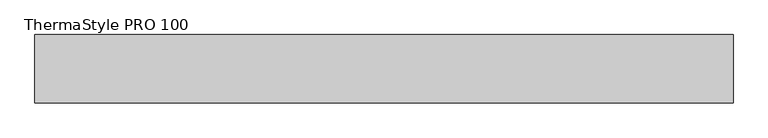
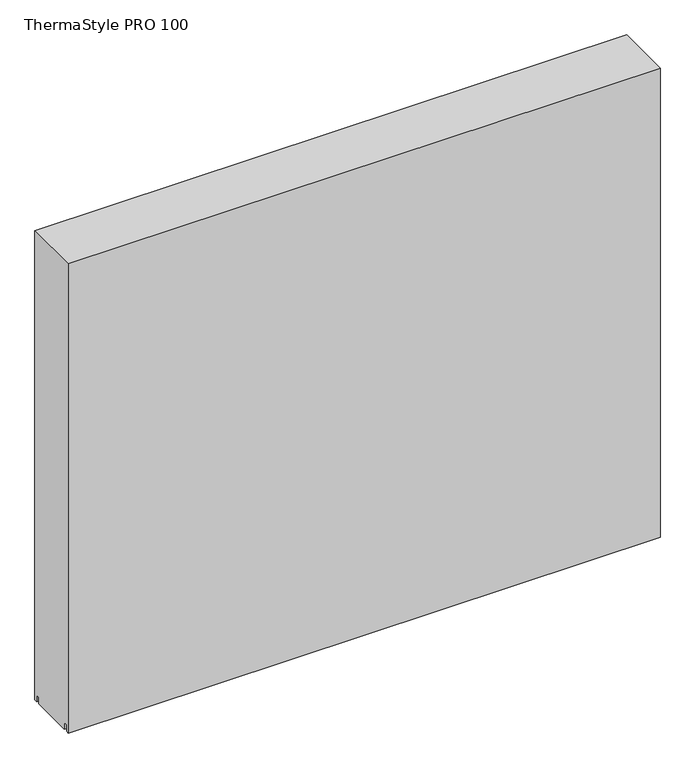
"""IFC4 building model written with IfcOpenShell, lengths in millimetres: plate geometry, Europanels_ThermaStyle PRO_Hz : ThermaStyle PRO 100."""

from ifc_helpers import new_model, si_unit, frame, origin, place, context, project, spatial, polyline, outline, extrude, source, transform, mapped, element, save


def thermastyle_pro_100_d2d4a927(model_context):
    return source(origin(), model_context, "Body", "SweptSolid", [
        extrude(outline(polyline([(50.0, 860.0), (50.0, 1.0), (45.0, 1.0), (45.0, 12.9552971), (37.8855682, 12.9552971), (37.8855682, 1.0), (-37.8855682, 1.0), (-37.8855682, 12.9552971), (-45.0, 12.9552971), (-45.0, 1.0), (-50.0, 1.0), (-50.0, 860.0), (50.0, 860.0)])), frame((-512.5, 0.0, 0.0), z_axis=(1.0, 0.0, 0.0), x_axis=(0.0, 1.0, 0.0)), (0.0, 0.0, 1.0), 1025.0),
    ])


if __name__ == "__main__":
    model = new_model("IFC4")
    model_context = context("Model", 3, world=origin())
    ifc_project = project(units=[si_unit("LENGTHUNIT", "METRE", prefix="MILLI")], contexts=[model_context])
    site = spatial("IfcSite", under=ifc_project)
    building = spatial("IfcBuilding", under=site)
    placement = place(None, origin())
    thermastyle_pro_100_shape = thermastyle_pro_100_d2d4a927(model_context)
    element("IfcPlate", 1, ObjectType="Europanels_ThermaStyle PRO_Hz : ThermaStyle PRO 100", at=placement, inside=building, context=model_context, shape_type="MappedRepresentation", body=[
        mapped(thermastyle_pro_100_shape, transform((0.0, 0.0, 0.0), x_axis=(1.0, 0.0, 0.0), y_axis=(0.0, 1.0, 0.0), z_axis=(0.0, 0.0, 1.0))),
    ])
    save(model, "model.ifc")
